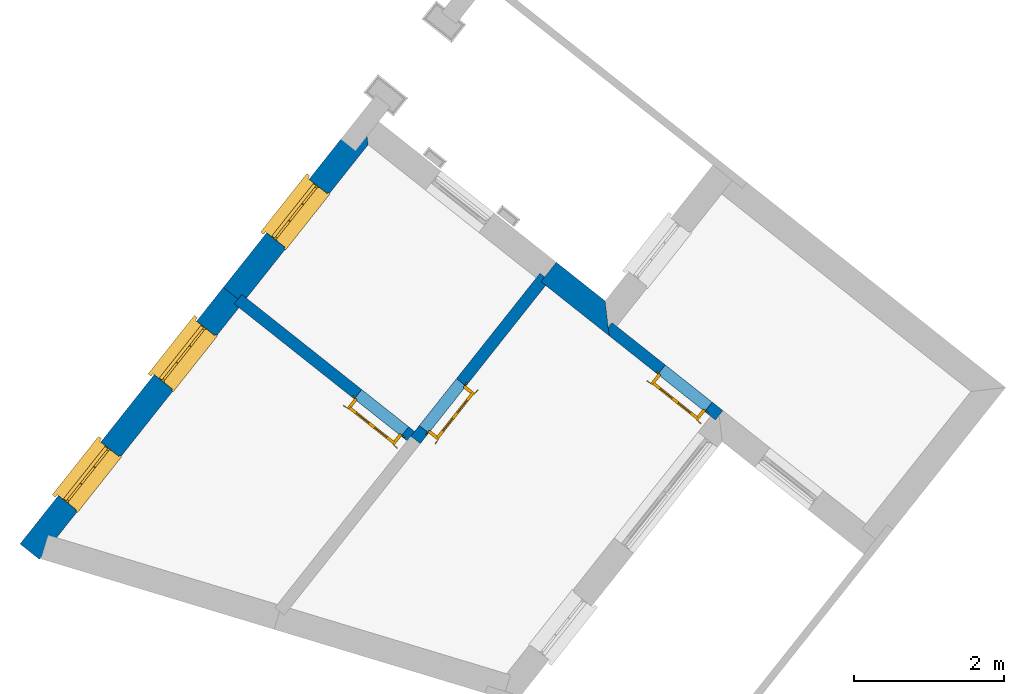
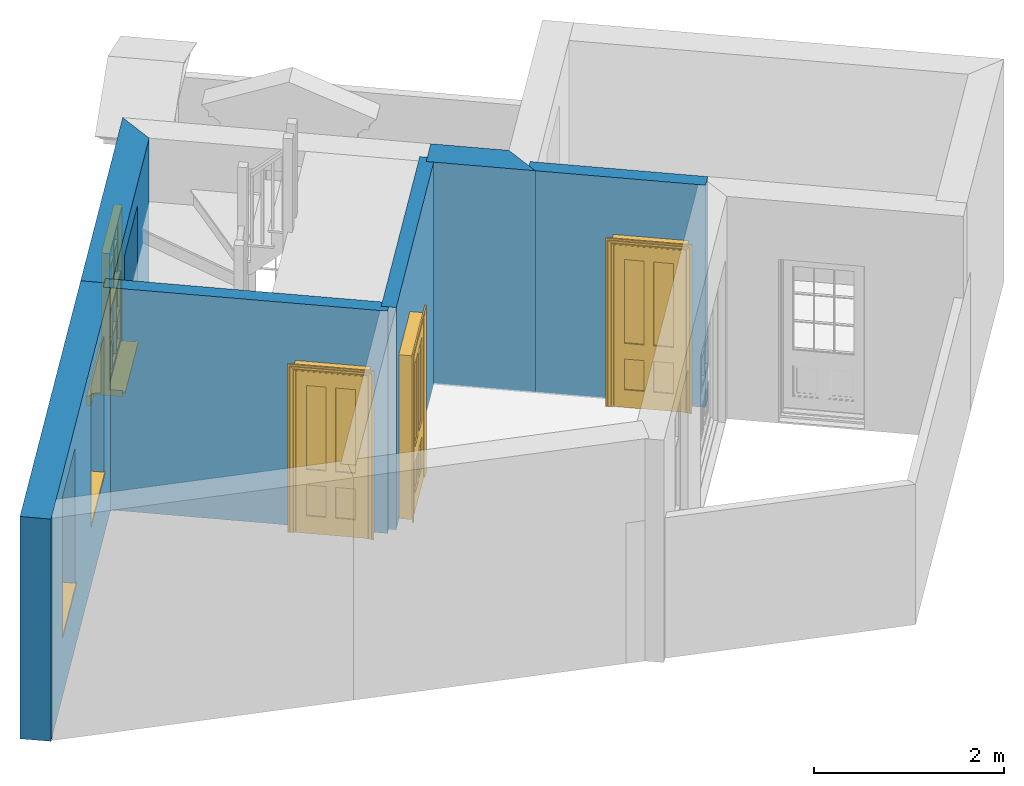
# One storey, part 4 of 8: 6 walls, 3 doors, 3 windows, 6 openings.
"""IFC4 building model written with IfcOpenShell, lengths in metres."""

from ifc_helpers import new_model, si_unit, frame, origin, origin_with_axes, place, context, subcontext, project, spatial, polyline, outline, extrude, faceted_brep, source, transform, mapped, material, layer, layer_set, layer_usage, type_object, type_shapes, element, fill, save


model = new_model("IFC4")

# Units and contexts
model_context = context("Model", 3, world=origin_with_axes())
body_context = subcontext(model_context, "Body", "Model", "MODEL_VIEW")
ifc_project = project(units=[si_unit("PLANEANGLEUNIT", "RADIAN"), si_unit("MASSUNIT", "GRAM", prefix="KILO"), si_unit("FORCEUNIT", "NEWTON", prefix="KILO"), si_unit("LENGTHUNIT", "METRE"), si_unit("AREAUNIT", "SQUARE_METRE"), si_unit("VOLUMEUNIT", "CUBIC_METRE")], contexts=[model_context, model_context])

# Sites, building, storey
site_1_placement = place(None, origin_with_axes())
site_1 = spatial("IfcSite", under=ifc_project, at=site_1_placement, Name="Tamar")
site_2_placement = place(site_1_placement, origin_with_axes())
site_2 = spatial("IfcSite", under=site_1, at=site_2_placement, Name="Site plot-5", CompositionType="ELEMENT")
building_placement = place(None, origin_with_axes())
building = spatial("IfcBuilding", under=site_2, at=building_placement, Name="Building plot-5", CompositionType="ELEMENT")
storey_placement = place(None, frame((0.0, 0.0, 24.0), z_axis=(0.0, 0.0, 1.0), x_axis=(1.0, 0.0, 0.0)))
storey = spatial("IfcBuildingStorey", under=building, at=storey_placement, Name="plot-5 0", CompositionType="ELEMENT", Elevation=24.0)

# Wall
ifc_material_1 = material(Name="Masonry")
ifc_layer_1 = layer(ifc_material_1, 0.33, ventilated=False)
ifc_layer_set_1 = layer_set([ifc_layer_1], Name="exterior_0.08_0.25")
ifc_layer_usage_1 = layer_usage(ifc_layer_set_1, "AXIS2", "POSITIVE", -0.25)
wall_type_1 = type_object("IfcWallType", Name="exterior_0.08_0.25", PredefinedType="SOLIDWALL", material=ifc_layer_set_1)
wall_1_placement = place(storey_placement, frame((232.729546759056, 275.005708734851, 0.0), z_axis=(0.0, 0.0, 1.0), x_axis=(-0.783658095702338, 0.621192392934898, 0.0)))
element("IfcWall", 1, at=wall_1_placement, inside=storey, type_object=wall_type_1, material=ifc_layer_usage_1, Name="exterior", context=body_context, shape_type="SweptSolid", body=[
    extrude(outline(polyline([(-0.0800000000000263, 0.0800000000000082), (0.25000000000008, -0.249999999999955), (1.07977793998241, -0.249999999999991), (1.07977793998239, 0.0800000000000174), (-0.0800000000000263, 0.0800000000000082)])), origin_with_axes(), (0.0, 0.0, 1.0), 2.85),
])

# Wall, opening, window
wall_2_placement = place(storey_placement, frame((229.516474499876, 277.552656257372, 0.0), z_axis=(0.0, 0.0, 1.0), x_axis=(-0.621192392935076, -0.783658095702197, 0.0)))
wall_2 = element("IfcWall", 2, at=wall_2_placement, inside=storey, type_object=wall_type_1, material=ifc_layer_usage_1, Name="exterior", context=body_context, shape_type="SweptSolid", body=[
    extrude(outline(polyline([(0.0799999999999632, 0.0799999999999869), (-0.249999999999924, -0.250000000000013), (2.77068773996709, -0.249999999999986), (2.77068773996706, 0.0799999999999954), (0.0799999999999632, 0.0799999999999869)])), origin_with_axes(), (0.0, 0.0, 1.0), 2.85),
])
opening_1_placement = place(wall_2_placement, frame((0.930343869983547, 0.0, 0.75)))
opening_1 = element("IfcOpeningElement", 3, at=opening_1_placement, cuts=wall_2, Name="My Opening", ObjectType="Opening", context=body_context, shape_type="SweptSolid", body=[
    extrude(outline(polyline([(0.0, -0.269999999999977), (0.909999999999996, -0.269999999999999), (0.909999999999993, 1.1), (-3.99680288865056e-15, 1.10000000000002), (0.0, -0.269999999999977)])), origin_with_axes(), (0.0, 0.0, 1.0), 1.82),
])
window_type = type_object("IfcWindowType", Name="sash_big", PartitioningType="DOUBLE_PANEL_HORIZONTAL", PredefinedType="NOTDEFINED")
shared_shape_1 = source(origin(), body_context, "Body", "Brep", [
    faceted_brep([(0.033125, 0.145, 0.975209), (0.01, 0.145, 0.975209), (0.033125, 0.145, 1.376042), (0.876875, 0.145, 0.975209), (0.876875, 0.145, 1.376042), (0.9, 0.145, 0.975209), (0.876875, 0.145, 1.386042), (0.876875, 0.145, 1.786875), (0.9, 0.145, 1.81), (0.033125, 0.145, 1.786875), (0.033125, 0.145, 1.386042), (0.01, 0.145, 1.81), (0.876875, 0.115, 1.376042), (0.876875, 0.115, 0.975209), (0.9, 0.115, 0.937083), (0.033125, 0.115, 1.786875), (0.01, 0.115, 1.81), (0.033125, 0.115, 1.386042), (0.01, 0.115, 0.937083), (0.033125, 0.115, 0.975209), (0.033125, 0.115, 1.376042), (0.876875, 0.115, 1.786875), (0.876875, 0.115, 1.386042), (0.9, 0.115, 1.81), (0.033125, 0.145, 0.937083), (0.01, 0.145, 0.937083), (0.033125, 0.145, 0.53625), (0.876875, 0.145, 0.937083), (0.876875, 0.145, 0.53625), (0.9, 0.145, 0.937083), (0.876875, 0.145, 0.52625), (0.876875, 0.145, 0.125417), (0.9, 0.145, 0.077167), (0.033125, 0.145, 0.125417), (0.033125, 0.145, 0.52625), (0.01, 0.145, 0.077167), (-0.0425, 0.0, 0.01), (-0.0425, -0.05, 0.001667), (0.0, 0.0, 0.01), (0.9525, 0.0, 0.01), (0.91, 0.0, 0.01), (0.9525, -0.05, 0.001667), (-0.02, 0.33, 0.077167), (0.0, 0.33, 0.077167), (-0.02, 0.36, 0.077167), (0.0, 0.19, 0.077167), (0.01, 0.19, 0.077167), (0.91, 0.19, 0.077167), (0.91, 0.33, 0.077167), (0.9, 0.19, 0.077167), (0.93, 0.33, 0.077167), (0.93, 0.36, 0.077167), (0.01, 0.175, 0.975209), (0.9, 0.175, 0.975209), (0.876875, 0.175, 0.125417), (0.876875, 0.175, 0.52625), (0.9, 0.175, 0.077167), (0.876875, 0.175, 0.53625), (0.876875, 0.175, 0.937083), (0.033125, 0.175, 0.125417), (0.01, 0.175, 0.077167), (0.033125, 0.175, 0.52625), (0.033125, 0.175, 0.937083), (0.033125, 0.175, 0.53625), (-0.02, 0.33, 0.052167), (-0.02, 0.36, 0.052167), (0.93, 0.36, 0.052167), (0.93, 0.33, 0.052167), (0.91, 0.33, 0.052167), (0.0, 0.33, 0.052167), (0.91, 0.1, 0.026667), (0.0, 0.1, 0.026667), (-0.0425, -0.05, -0.123333), (0.9525, -0.05, -0.123333), (-0.0425, 0.0, -0.123333), (0.9525, 0.0, -0.123333), (0.01, 0.19, 1.81), (0.9, 0.19, 1.81), (0.0, 0.19, 1.82), (0.91, 0.19, 1.82), (0.01, 0.1, 0.077167), (0.9, 0.1, 0.077167), (0.592292, 0.145, 0.125417), (0.592292, 0.175, 0.125417), (0.317708, 0.175, 0.125417), (0.317708, 0.145, 0.125417), (0.592292, 0.145, 0.53625), (0.317708, 0.145, 0.53625), (0.317708, 0.145, 0.52625), (0.592292, 0.145, 0.52625), (0.592292, 0.175, 0.53625), (0.317708, 0.175, 0.53625), (0.592292, 0.115, 1.386042), (0.592292, 0.145, 1.386042), (0.317708, 0.145, 1.386042), (0.317708, 0.115, 1.386042), (0.317708, 0.115, 1.376042), (0.592292, 0.115, 1.376042), (0.317708, 0.145, 1.376042), (0.592292, 0.145, 1.376042), (0.602292, 0.115, 1.376042), (0.592292, 0.115, 0.975209), (0.602292, 0.115, 0.975209), (0.602292, 0.145, 0.975209), (0.592292, 0.145, 0.975209), (0.602292, 0.145, 1.376042), (0.602292, 0.175, 0.53625), (0.602292, 0.145, 0.53625), (0.317708, 0.175, 0.52625), (0.307708, 0.175, 0.125417), (0.307708, 0.175, 0.52625), (0.602292, 0.175, 0.52625), (0.602292, 0.175, 0.125417), (0.592292, 0.175, 0.52625), (0.307708, 0.175, 0.53625), (0.317708, 0.175, 0.937083), (0.307708, 0.175, 0.937083), (0.602292, 0.175, 0.937083), (0.592292, 0.175, 0.937083), (0.307708, 0.145, 0.52625), (0.307708, 0.145, 0.125417), (0.307708, 0.145, 0.53625), (0.307708, 0.145, 0.937083), (0.592292, 0.145, 0.937083), (0.317708, 0.145, 0.937083), (0.602292, 0.145, 0.937083), (0.602292, 0.145, 0.52625), (0.602292, 0.145, 0.125417), (0.307708, 0.115, 1.386042), (0.307708, 0.115, 1.376042), (0.307708, 0.115, 0.975209), (0.317708, 0.115, 0.975209), (0.317708, 0.115, 1.786875), (0.307708, 0.115, 1.786875), (0.602292, 0.115, 1.786875), (0.592292, 0.115, 1.786875), (0.602292, 0.115, 1.386042), (0.602292, 0.145, 1.386042), (0.307708, 0.145, 1.386042), (0.307708, 0.145, 1.786875), (0.317708, 0.145, 1.786875), (0.592292, 0.145, 1.786875), (0.602292, 0.145, 1.786875), (0.307708, 0.145, 1.376042), (0.317708, 0.145, 0.975209), (0.307708, 0.145, 0.975209), (0.91, 0.1, 1.82), (0.9, 0.1, 1.81), (0.01, 0.1, 1.81), (0.0, 0.1, 1.82), (0.91, 0.0, 0.0), (0.0, 0.0, 0.0), (0.91, 0.33, 0.0), (0.0, 0.33, 0.0)], [[[0, 1, 2]], [[3, 4, 5]], [[6, 7, 8]], [[9, 10, 11]], [[12, 13, 14]], [[15, 16, 17]], [[18, 19, 20]], [[21, 22, 23]], [[24, 25, 26]], [[27, 28, 29]], [[30, 31, 32]], [[33, 34, 35]], [[14, 27, 29]], [[25, 24, 18]], [[36, 37, 38]], [[39, 40, 41]], [[42, 43, 44]], [[45, 46, 43]], [[47, 48, 49]], [[50, 51, 48]], [[1, 0, 52]], [[5, 53, 3]], [[54, 55, 56]], [[57, 58, 53]], [[59, 60, 61]], [[62, 63, 52]], [[48, 43, 46, 49]], [[51, 44, 43, 48]], [[64, 42, 44, 65]], [[65, 44, 51, 66]], [[66, 51, 50, 67]], [[65, 66, 68, 69]], [[60, 56, 49, 46]], [[70, 71, 38, 40]], [[37, 41, 40, 38]], [[37, 72, 73, 41]], [[74, 75, 73, 72]], [[8, 11, 76, 77]], [[76, 78, 79, 77]], [[32, 35, 80, 81]], [[81, 80, 71, 70]], [[82, 83, 84, 85]], [[86, 87, 88, 89]], [[86, 90, 91, 87]], [[92, 93, 94, 95]], [[92, 95, 96, 97]], [[96, 98, 99, 97]], [[100, 97, 101, 102]], [[103, 104, 99, 105]], [[97, 99, 104, 101]], [[102, 103, 105, 100]], [[28, 57, 106, 107]], [[108, 84, 109, 110]], [[111, 112, 83, 113]], [[114, 110, 61, 63]], [[90, 113, 108, 91]], [[115, 91, 114, 116]], [[117, 106, 90, 118]], [[111, 106, 57, 55]], [[119, 110, 109, 120]], [[34, 61, 110, 119]], [[89, 113, 83, 82]], [[88, 108, 113, 89]], [[85, 84, 108, 88]], [[121, 114, 63, 26]], [[122, 116, 114, 121]], [[123, 118, 90, 86]], [[87, 91, 115, 124]], [[107, 106, 117, 125]], [[126, 111, 55, 30]], [[127, 112, 111, 126]], [[126, 30, 28, 107]], [[88, 119, 120, 85]], [[126, 89, 82, 127]], [[125, 123, 86, 107]], [[121, 26, 34, 119]], [[124, 122, 121, 87]], [[128, 17, 20, 129]], [[96, 129, 130, 131]], [[132, 133, 128, 95]], [[134, 135, 92, 136]], [[100, 12, 22, 136]], [[137, 6, 4, 105]], [[94, 138, 139, 140]], [[137, 93, 141, 142]], [[99, 98, 94, 93]], [[143, 2, 10, 138]], [[144, 145, 143, 98]], [[129, 143, 145, 130]], [[20, 2, 143, 129]], [[131, 144, 98, 96]], [[128, 138, 10, 17]], [[133, 139, 138, 128]], [[135, 141, 93, 92]], [[95, 94, 140, 132]], [[22, 6, 137, 136]], [[136, 137, 142, 134]], [[100, 105, 4, 12]], [[107, 86, 89, 126]], [[106, 111, 113, 90]], [[91, 108, 110, 114]], [[87, 121, 119, 88]], [[97, 100, 136, 92]], [[129, 96, 95, 128]], [[98, 143, 138, 94]], [[105, 99, 93, 137]], [[131, 101, 104, 144]], [[124, 115, 118, 123]], [[132, 140, 141, 135]], [[120, 109, 59, 33]], [[15, 9, 139, 133]], [[134, 142, 7, 21]], [[31, 54, 112, 127]], [[36, 74, 72, 37]], [[39, 41, 73, 75]], [[18, 14, 101, 131]], [[23, 16, 132, 135]], [[83, 56, 60, 84]], [[52, 53, 118, 115]], [[53, 52, 144, 104]], [[11, 8, 141, 140]], [[14, 18, 124, 123]], [[2, 1, 11, 10]], [[8, 5, 4, 6]], [[57, 53, 56, 55]], [[60, 52, 63, 61]], [[26, 25, 35, 34]], [[32, 29, 28, 30]], [[14, 23, 22, 12]], [[18, 20, 17, 16]], [[19, 0, 2, 20]], [[17, 10, 9, 15]], [[12, 4, 3, 13]], [[21, 7, 6, 22]], [[27, 58, 57, 28]], [[30, 55, 54, 31]], [[33, 59, 61, 34]], [[26, 63, 62, 24]], [[5, 8, 77, 53]], [[76, 11, 1, 52]], [[46, 45, 78, 76]], [[49, 77, 79, 47]], [[70, 146, 147, 81]], [[71, 80, 148, 149]], [[19, 130, 145, 0]], [[102, 13, 3, 103]], [[116, 122, 24, 62]], [[29, 32, 81, 14]], [[80, 35, 25, 18]], [[60, 46, 76, 52]], [[77, 49, 56, 53]], [[23, 14, 81, 147]], [[16, 148, 80, 18]], [[35, 85, 120]], [[120, 33, 35]], [[127, 82, 32]], [[32, 31, 127]], [[32, 82, 85, 35]], [[102, 101, 14]], [[14, 13, 102]], [[18, 131, 130]], [[130, 19, 18]], [[134, 21, 23]], [[23, 135, 134]], [[16, 15, 133]], [[133, 132, 16]], [[11, 140, 139]], [[139, 9, 11]], [[142, 141, 8]], [[8, 7, 142]], [[23, 147, 148, 16]], [[146, 149, 148, 147]], [[52, 115, 116]], [[116, 62, 52]], [[118, 53, 117]], [[58, 117, 53]], [[27, 125, 117, 58]], [[56, 83, 112]], [[112, 54, 56]], [[109, 84, 60]], [[60, 59, 109]], [[125, 27, 14]], [[14, 123, 125]], [[122, 124, 18]], [[18, 24, 122]], [[145, 144, 52]], [[52, 0, 145]], [[103, 3, 53]], [[53, 104, 103]], [[79, 78, 149, 146]], [[78, 45, 71, 149]], [[146, 70, 47, 79]], [[150, 75, 74, 151]], [[68, 66, 67]], [[48, 68, 67, 50]], [[69, 64, 65]], [[42, 64, 69, 43]], [[69, 68, 152, 153]], [[70, 68, 48, 47]], [[150, 152, 68, 70]], [[43, 69, 71, 45]], [[69, 153, 151, 71]], [[152, 150, 151, 153]], [[38, 151, 74, 36]], [[71, 151, 38]], [[39, 75, 150, 40]], [[40, 150, 70]]]),
])
type_shapes(window_type, [shared_shape_1])
window_1_placement = place(storey_placement, frame((228.726964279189, 276.991306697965, 0.75), z_axis=(0.0, 0.0, 1.0), x_axis=(-0.565285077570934, -0.713128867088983, 0.0)))
window_1 = element("IfcWindow", 4, at=window_1_placement, inside=storey, type_object=window_type, Name="circulation street window", OverallHeight=1.82, OverallWidth=0.91, context=body_context, shape_type="MappedRepresentation", body=[
    mapped(shared_shape_1, transform((0.0, 0.0, 0.0), scale=1.0)),
])
fill(opening_1, window_1)

# Wall, openings, windows
wall_3_placement = place(storey_placement, frame((227.79534435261, 275.381384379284, 0.0), z_axis=(0.0, 0.0, 1.0), x_axis=(-0.621192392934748, -0.783658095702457, 0.0)))
wall_3 = element("IfcWall", 5, at=wall_3_placement, inside=storey, type_object=wall_type_1, material=ifc_layer_usage_1, Name="exterior", context=body_context, shape_type="SweptSolid", body=[
    extrude(outline(polyline([(2.39305944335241e-14, 0.079999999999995), (-8.25852849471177e-14, -0.249999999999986), (4.36249502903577, -0.249999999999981), (4.36249502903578, 0.0800000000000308), (2.39305944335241e-14, 0.079999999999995)])), origin_with_axes(), (0.0, 0.0, 1.0), 2.85),
])
opening_2_placement = place(wall_3_placement, frame((0.573123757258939, 0.0, 0.75)))
opening_2 = element("IfcOpeningElement", 6, at=opening_2_placement, cuts=wall_3, Name="My Opening", ObjectType="Opening", context=body_context, shape_type="SweptSolid", body=[
    extrude(outline(polyline([(0.0, -0.270000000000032), (0.909999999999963, -0.270000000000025), (0.909999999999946, 1.09999999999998), (-1.69864122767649e-14, 1.09999999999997), (0.0, -0.270000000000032)])), origin_with_axes(), (0.0, 0.0, 1.0), 1.82),
])
opening_3_placement = place(wall_3_placement, frame((2.62937127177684, 0.0, 0.75)))
opening_3 = element("IfcOpeningElement", 7, at=opening_3_placement, cuts=wall_3, Name="My Opening", ObjectType="Opening", context=body_context, shape_type="SweptSolid", body=[
    extrude(outline(polyline([(0.0, -0.270000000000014), (0.909999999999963, -0.270000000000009), (0.909999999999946, 1.1), (-1.68753899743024e-14, 1.09999999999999), (0.0, -0.270000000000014)])), origin_with_axes(), (0.0, 0.0, 1.0), 1.82),
])
window_2_placement = place(storey_placement, frame((227.227736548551, 275.099973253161, 0.75), z_axis=(0.0, 0.0, 1.0), x_axis=(-0.565285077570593, -0.71312886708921, 0.0)))
window_2 = element("IfcWindow", 8, at=window_2_placement, inside=storey, type_object=window_type, Name="toilet street window", OverallHeight=1.82, OverallWidth=0.91, context=body_context, shape_type="MappedRepresentation", body=[
    mapped(shared_shape_1, transform((0.0, 0.0, 0.0), scale=1.0)),
])
fill(opening_2, window_2)
window_3_placement = place(storey_placement, frame((225.950411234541, 273.488578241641, 0.75), z_axis=(0.0, 0.0, 1.0), x_axis=(-0.565285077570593, -0.71312886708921, 0.0)))
window_3 = element("IfcWindow", 9, at=window_3_placement, inside=storey, type_object=window_type, Name="toilet street window", OverallHeight=1.82, OverallWidth=0.91, context=body_context, shape_type="MappedRepresentation", body=[
    mapped(shared_shape_1, transform((0.0, 0.0, 0.0), scale=1.0)),
])
fill(opening_3, window_3)

# Wall, opening, door
ifc_material_2 = material(Name="Masonry")
ifc_layer_2 = layer(ifc_material_2, 0.16, ventilated=False)
ifc_layer_set_2 = layer_set([ifc_layer_2], Name="interior_0.08_0.08")
ifc_layer_usage_2 = layer_usage(ifc_layer_set_2, "AXIS2", "POSITIVE", -0.08)
wall_type_2 = type_object("IfcWallType", Name="interior_0.08_0.08", PredefinedType="SOLIDWALL", material=ifc_layer_set_2)
wall_4_placement = place(storey_placement, frame((231.883370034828, 275.676458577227, 0.0), z_axis=(0.0, 0.0, 1.0), x_axis=(-0.62119239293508, -0.783658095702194, 0.0)))
wall_4 = element("IfcWall", 10, at=wall_4_placement, inside=storey, type_object=wall_type_2, material=ifc_layer_usage_2, Name="interior", context=body_context, shape_type="SweptSolid", body=[
    extrude(outline(polyline([(-9.89123978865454e-15, 0.079999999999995), (9.88144261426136e-15, -0.079999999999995), (2.77068773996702, -0.0799999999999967), (2.770687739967, 0.0799999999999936), (-9.89123978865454e-15, 0.079999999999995)])), origin_with_axes(), (0.0, 0.0, 1.0), 2.85),
])
opening_4_placement = place(wall_4_placement, frame((1.790687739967, 0.0, 0.0199999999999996)))
opening_4 = element("IfcOpeningElement", 11, at=opening_4_placement, cuts=wall_4, Name="My Opening", ObjectType="Opening", context=body_context, shape_type="SweptSolid", body=[
    extrude(outline(polyline([(0.0, -0.100000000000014), (0.80000000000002, -0.100000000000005), (0.800000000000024, 1.1), (2.88657986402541e-15, 1.1), (0.0, -0.100000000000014)])), origin_with_axes(), (0.0, 0.0, 1.0), 2.1),
])
door_type = type_object("IfcDoorType", Name="door_inside", OperationType="SINGLE_SWING_LEFT", PredefinedType="NOTDEFINED")
shared_shape_2 = source(origin(), body_context, "Body", "Brep", [
    faceted_brep([(0.773, 0.33, 1.895), (0.66, 0.33, 1.895), (0.66, 0.33, 2.073), (0.773, 0.33, 2.073), (0.773, 0.33, 0.82), (0.66, 0.33, 0.82), (0.45, 0.33, 1.895), (0.45, 0.33, 2.073), (0.773, 0.33, 0.62), (0.66, 0.33, 0.62), (0.66, 0.315, 0.82), (0.66, 0.315, 1.895), (0.45, 0.315, 1.895), (0.35, 0.33, 1.895), (0.35, 0.33, 2.073), (0.773, 0.33, 0.225), (0.66, 0.33, 0.225), (0.45, 0.33, 0.62), (0.45, 0.33, 0.82), (0.45, 0.315, 0.82), (0.35, 0.33, 0.82), (0.14, 0.33, 2.073), (0.14, 0.33, 1.895), (0.773, 0.33, 0.0), (0.66, 0.33, 0.0), (0.66, 0.315, 0.225), (0.66, 0.315, 0.62), (0.45, 0.315, 0.62), (0.35, 0.33, 0.62), (0.35, 0.315, 0.82), (0.35, 0.315, 1.895), (0.14, 0.315, 1.895), (0.027, 0.33, 2.073), (0.027, 0.33, 1.895), (0.773, 0.292, 0.0), (0.66, 0.292, 0.0), (0.45, 0.33, 0.0), (0.45, 0.33, 0.225), (0.45, 0.315, 0.225), (0.35, 0.33, 0.225), (0.14, 0.33, 0.82), (0.14, 0.33, 0.62), (0.14, 0.315, 0.82), (0.027, 0.33, 0.82), (0.773, 0.292, 0.225), (0.66, 0.292, 0.225), (0.45, 0.292, 0.0), (0.35, 0.33, 0.0), (0.35, 0.315, 0.225), (0.35, 0.315, 0.62), (0.14, 0.315, 0.62), (0.027, 0.33, 0.62), (0.773, 0.292, 0.62), (0.66, 0.292, 0.62), (0.45, 0.292, 0.225), (0.35, 0.292, 0.0), (0.14, 0.33, 0.225), (0.14, 0.33, 0.0), (0.14, 0.315, 0.225), (0.027, 0.33, 0.225), (0.773, 0.292, 0.82), (0.66, 0.292, 0.82), (0.66, 0.307, 0.62), (0.66, 0.307, 0.225), (0.45, 0.307, 0.225), (0.35, 0.292, 0.225), (0.14, 0.292, 0.0), (0.027, 0.33, 0.0), (0.773, 0.292, 1.895), (0.66, 0.292, 1.895), (0.45, 0.292, 0.62), (0.45, 0.292, 0.82), (0.45, 0.307, 0.62), (0.35, 0.292, 0.62), (0.14, 0.292, 0.225), (0.027, 0.292, 0.0), (0.773, 0.292, 2.073), (0.66, 0.292, 2.073), (0.66, 0.307, 1.895), (0.66, 0.307, 0.82), (0.45, 0.307, 0.82), (0.35, 0.292, 0.82), (0.35, 0.307, 0.62), (0.35, 0.307, 0.225), (0.14, 0.307, 0.225), (0.027, 0.292, 0.225), (0.45, 0.292, 1.895), (0.45, 0.292, 2.073), (0.45, 0.307, 1.895), (0.35, 0.292, 1.895), (0.14, 0.292, 0.82), (0.14, 0.292, 0.62), (0.14, 0.307, 0.62), (0.027, 0.292, 0.62), (0.35, 0.292, 2.073), (0.35, 0.307, 1.895), (0.35, 0.307, 0.82), (0.14, 0.307, 0.82), (0.027, 0.292, 0.82), (0.14, 0.292, 2.073), (0.14, 0.292, 1.895), (0.14, 0.307, 1.895), (0.027, 0.292, 1.895), (0.027, 0.292, 2.073), (0.02, 0.335, 0.0), (0.005, 0.34, 0.0), (0.005, 0.34, 2.095), (0.02, 0.335, 2.08), (0.02, 0.33, 0.0), (0.0, 0.335, 0.0), (0.0, 0.335, 2.1), (0.795, 0.34, 2.095), (0.78, 0.335, 2.08), (0.02, 0.33, 2.08), (0.0, 0.33, 0.0), (-0.032, 0.345, 0.0), (-0.032, 0.345, 2.132), (0.8, 0.335, 2.1), (0.795, 0.34, 0.0), (0.78, 0.335, 0.0), (0.78, 0.33, 2.08), (0.04, 0.29, 0.0), (0.025, 0.29, 0.0), (0.025, 0.29, 2.075), (0.04, 0.29, 2.06), (-0.04, 0.34, 0.0), (-0.04, 0.34, 2.14), (0.832, 0.345, 2.132), (0.8, 0.335, 0.0), (0.78, 0.33, 0.0), (0.8, 0.33, 0.0), (0.86, 0.33, 0.0), (0.86, 0.33, 2.16), (0.8, 0.33, 2.1), (-0.06, 0.33, 2.16), (0.0, 0.33, 2.1), (-0.06, 0.33, 0.0), (-0.04, 0.345, 0.0), (-0.04, 0.345, 2.14), (0.84, 0.34, 2.14), (0.832, 0.345, 0.0), (0.84, 0.34, 0.0), (0.86, 0.345, 0.0), (0.86, 0.345, 2.16), (-0.06, 0.345, 2.16), (-0.06, 0.345, 0.0), (0.84, 0.345, 0.0), (0.84, 0.345, 2.14), (-0.025, 0.155, 0.0), (-0.025, 0.16, 0.0), (-0.025, 0.16, 2.125), (-0.025, 0.155, 2.125), (-0.017, 0.155, 0.0), (-0.017, 0.155, 2.117), (0.825, 0.16, 2.125), (0.825, 0.155, 2.125), (0.825, 0.155, 0.0), (0.845, 0.155, 0.0), (-0.045, 0.155, 2.145), (-0.045, 0.155, 0.0), (0.845, 0.155, 2.145), (0.015, 0.165, 0.0), (0.015, 0.165, 2.085), (0.817, 0.155, 2.117), (0.825, 0.16, 0.0), (0.845, 0.17, 0.0), (0.845, 0.17, 2.145), (-0.045, 0.17, 2.145), (-0.045, 0.17, 0.0), (0.02, 0.16, 0.0), (0.02, 0.16, 2.08), (0.785, 0.165, 2.085), (0.817, 0.155, 0.0), (0.8, 0.17, 0.0), (0.8, 0.17, 2.1), (0.0, 0.17, 2.1), (0.0, 0.17, 0.0), (0.035, 0.165, 0.0), (0.035, 0.165, 2.065), (0.78, 0.16, 2.08), (0.785, 0.165, 0.0), (0.775, 0.29, 2.075), (0.76, 0.29, 2.06), (0.035, 0.17, 2.065), (0.035, 0.17, 0.0), (0.765, 0.165, 2.065), (0.78, 0.16, 0.0), (0.765, 0.17, 0.0), (0.765, 0.17, 2.065), (0.765, 0.165, 0.0), (0.04, 0.17, 2.06), (0.04, 0.17, 0.0), (0.76, 0.17, 2.06), (0.76, 0.17, 0.0), (0.76, 0.29, 0.0), (0.775, 0.29, 0.0), (0.025, 0.33, 0.0), (0.025, 0.33, 2.075), (0.775, 0.33, 0.0), (0.775, 0.33, 2.075)], [[[0, 1, 2, 3]], [[1, 0, 4, 5]], [[1, 6, 7, 2]], [[8, 9, 5, 4]], [[1, 5, 10, 11]], [[6, 1, 11, 12]], [[6, 13, 14, 7]], [[15, 16, 9, 8]], [[9, 17, 18, 5]], [[5, 18, 19, 10]], [[10, 19, 12, 11]], [[18, 6, 12, 19]], [[18, 20, 13, 6]], [[21, 14, 13, 22]], [[23, 24, 16, 15]], [[9, 16, 25, 26]], [[17, 9, 26, 27]], [[17, 28, 20, 18]], [[13, 20, 29, 30]], [[22, 13, 30, 31]], [[32, 21, 22, 33]], [[34, 35, 24, 23]], [[24, 36, 37, 16]], [[16, 37, 38, 25]], [[25, 38, 27, 26]], [[37, 17, 27, 38]], [[37, 39, 28, 17]], [[40, 20, 28, 41]], [[20, 40, 42, 29]], [[31, 30, 29, 42]], [[40, 22, 31, 42]], [[33, 22, 40, 43]], [[35, 34, 44, 45]], [[35, 46, 36, 24]], [[36, 47, 39, 37]], [[28, 39, 48, 49]], [[41, 28, 49, 50]], [[43, 40, 41, 51]], [[45, 44, 52, 53]], [[46, 35, 45, 54]], [[46, 55, 47, 36]], [[56, 39, 47, 57]], [[39, 56, 58, 48]], [[50, 49, 48, 58]], [[56, 41, 50, 58]], [[51, 41, 56, 59]], [[53, 52, 60, 61]], [[45, 53, 62, 63]], [[54, 45, 63, 64]], [[55, 46, 54, 65]], [[55, 66, 57, 47]], [[59, 56, 57, 67]], [[61, 60, 68, 69]], [[70, 53, 61, 71]], [[53, 70, 72, 62]], [[72, 64, 63, 62]], [[70, 54, 64, 72]], [[65, 54, 70, 73]], [[65, 74, 66, 55]], [[67, 57, 66, 75]], [[69, 68, 76, 77]], [[61, 69, 78, 79]], [[71, 61, 79, 80]], [[73, 70, 71, 81]], [[65, 73, 82, 83]], [[74, 65, 83, 84]], [[74, 85, 75, 66]], [[86, 69, 77, 87]], [[69, 86, 88, 78]], [[88, 80, 79, 78]], [[86, 71, 80, 88]], [[81, 71, 86, 89]], [[73, 81, 90, 91]], [[73, 91, 92, 82]], [[83, 82, 92, 84]], [[91, 74, 84, 92]], [[91, 93, 85, 74]], [[89, 86, 87, 94]], [[81, 89, 95, 96]], [[90, 81, 96, 97]], [[90, 98, 93, 91]], [[94, 99, 100, 89]], [[89, 100, 101, 95]], [[101, 97, 96, 95]], [[100, 90, 97, 101]], [[100, 102, 98, 90]], [[99, 103, 102, 100]], [[32, 103, 99, 21]], [[102, 103, 32, 33]], [[98, 102, 33, 43]], [[21, 99, 94, 14]], [[94, 87, 7, 14]], [[7, 87, 77, 2]], [[76, 3, 2, 77]], [[43, 51, 93, 98]], [[51, 59, 85, 93]], [[67, 75, 85, 59]], [[34, 23, 15, 44]], [[44, 15, 8, 52]], [[52, 8, 4, 60]], [[0, 68, 60, 4]], [[0, 3, 76, 68]], [[104, 105, 106, 107]], [[104, 108, 109, 105]], [[105, 109, 110, 106]], [[107, 106, 111, 112]], [[107, 113, 108, 104]], [[114, 109, 108]], [[109, 115, 116, 110]], [[106, 110, 117, 111]], [[112, 111, 118, 119]], [[113, 107, 112, 120]], [[121, 122, 123, 124]], [[115, 109, 114, 125]], [[115, 125, 126, 116]], [[110, 116, 127, 117]], [[111, 117, 128, 118]], [[118, 128, 129, 119]], [[120, 112, 119, 129]], [[130, 129, 128]], [[130, 131, 132, 133]], [[133, 132, 134, 135]], [[135, 134, 136, 114]], [[136, 125, 114]], [[125, 137, 138, 126]], [[116, 126, 139, 127]], [[117, 127, 140, 128]], [[141, 130, 128, 140]], [[131, 130, 141]], [[131, 142, 143, 132]], [[132, 143, 144, 134]], [[134, 144, 145, 136]], [[137, 125, 136, 145]], [[143, 142, 146]], [[143, 146, 147]], [[137, 145, 144]], [[143, 147, 138]], [[138, 137, 144]], [[143, 138, 144]], [[126, 138, 147, 139]], [[127, 139, 141, 140]], [[142, 131, 141, 146]], [[139, 147, 146, 141]], [[148, 149, 150, 151]], [[149, 152, 153, 150]], [[151, 150, 154, 155]], [[155, 156, 157]], [[158, 159, 148]], [[158, 148, 151]], [[155, 157, 160]], [[158, 151, 155]], [[155, 160, 158]], [[152, 161, 162, 153]], [[150, 153, 163, 154]], [[155, 154, 164, 156]], [[156, 164, 165, 157]], [[157, 165, 166, 160]], [[160, 166, 167, 158]], [[158, 167, 168, 159]], [[161, 169, 170, 162]], [[153, 162, 171, 163]], [[154, 163, 172, 164]], [[165, 164, 173]], [[165, 173, 174, 166]], [[166, 174, 175, 167]], [[167, 175, 176, 168]], [[169, 177, 178, 170]], [[162, 170, 179, 171]], [[163, 171, 180, 172]], [[172, 180, 173, 164]], [[124, 123, 181, 182]], [[183, 178, 177, 184]], [[170, 178, 185, 179]], [[171, 179, 186, 180]], [[187, 173, 180]], [[185, 188, 187, 189]], [[188, 185, 178, 183]], [[179, 185, 189, 186]], [[189, 187, 180, 186]], [[190, 183, 184, 191]], [[192, 188, 183, 190]], [[191, 184, 122, 121]], [[124, 190, 191, 121]], [[193, 187, 188, 192]], [[182, 192, 190, 124]], [[184, 176, 122]], [[194, 195, 187, 193]], [[192, 182, 194, 193]], [[161, 176, 184]], [[114, 108, 122, 176]], [[173, 187, 195]], [[152, 149, 176, 161]], [[169, 161, 184, 177]], [[196, 122, 108]], [[176, 175, 135, 114]], [[173, 195, 129, 130]], [[176, 149, 168]], [[123, 122, 196, 197]], [[196, 108, 113, 197]], [[175, 174, 133, 135]], [[198, 129, 195]], [[133, 174, 173, 130]], [[159, 168, 149, 148]], [[181, 123, 197, 199]], [[197, 113, 120, 199]], [[199, 120, 129, 198]], [[195, 181, 199, 198]], [[195, 194, 182, 181]]]),
])
type_shapes(door_type, [shared_shape_2])
door_1_placement = place(storey_placement, frame((230.692642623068, 274.335290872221, 0.0199999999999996), z_axis=(0.0, 0.0, 1.0), x_axis=(-0.496953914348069, -0.626926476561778, 0.0)))
door_1 = element("IfcDoor", 12, at=door_1_placement, inside=storey, type_object=door_type, Name="living inside door", OverallHeight=2.1, OverallWidth=0.8, context=body_context, shape_type="MappedRepresentation", body=[
    mapped(shared_shape_2, transform((0.0, 0.0, 0.0), scale=1.0)),
])
fill(opening_4, door_1)

wall_5_placement = place(storey_placement, frame((234.208321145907, 273.833509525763, 0.0), z_axis=(0.0, 0.0, 1.0), x_axis=(-0.783658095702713, 0.621192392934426, 0.0)))
wall_5 = element("IfcWall", 13, at=wall_5_placement, inside=storey, type_object=wall_type_2, material=ifc_layer_usage_2, Name="interior", context=body_context, shape_type="SweptSolid", body=[
    extrude(outline(polyline([(1.69513428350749e-14, 0.0799999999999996), (-1.69415456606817e-14, -0.0799999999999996), (1.88701475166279, -0.0799999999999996), (1.88701475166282, 0.0799999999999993), (1.69513428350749e-14, 0.0799999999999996)])), origin_with_axes(), (0.0, 0.0, 1.0), 2.85),
])
opening_5_placement = place(wall_5_placement, frame((0.179999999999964, 0.0, 0.0199999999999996)))
opening_5 = element("IfcOpeningElement", 14, at=opening_5_placement, cuts=wall_5, Name="My Opening", ObjectType="Opening", context=body_context, shape_type="SweptSolid", body=[
    extrude(outline(polyline([(0.0, -0.0999999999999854), (0.800000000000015, -0.0999999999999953), (0.800000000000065, 1.09999999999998), (5.00155472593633e-14, 1.09999999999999), (0.0, -0.0999999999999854)])), origin_with_axes(), (0.0, 0.0, 1.0), 2.1),
])
door_2_placement = place(storey_placement, frame((234.129381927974, 274.023689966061, 0.0199999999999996), z_axis=(0.0, 0.0, 1.0), x_axis=(-0.626926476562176, 0.496953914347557, 0.0)))
door_2 = element("IfcDoor", 15, at=door_2_placement, inside=storey, type_object=door_type, Name="kitchen living inside door", OverallHeight=2.1, OverallWidth=0.8, context=body_context, shape_type="MappedRepresentation", body=[
    mapped(shared_shape_2, transform((0.0, 0.0, 0.0), scale=1.0)),
])
fill(opening_5, door_2)

wall_6_placement = place(storey_placement, frame((230.162239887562, 273.505186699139, 0.0), z_axis=(0.0, 0.0, 1.0), x_axis=(-0.783658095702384, 0.621192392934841, 0.0)))
wall_6 = element("IfcWall", 16, at=wall_6_placement, inside=storey, type_object=wall_type_2, material=ifc_layer_usage_2, Name="interior", context=body_context, shape_type="SweptSolid", body=[
    extrude(outline(polyline([(-3.12148945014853e-15, 0.0800000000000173), (3.16681376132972e-15, -0.0800000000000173), (3.02031657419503, -0.0800000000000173), (3.02031657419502, 0.0800000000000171), (-3.12148945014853e-15, 0.0800000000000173)])), origin_with_axes(), (0.0, 0.0, 1.0), 2.85),
])
opening_6_placement = place(wall_6_placement, frame((0.179999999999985, 0.0, 0.0199999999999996)))
opening_6 = element("IfcOpeningElement", 17, at=opening_6_placement, cuts=wall_6, Name="My Opening", ObjectType="Opening", context=body_context, shape_type="SweptSolid", body=[
    extrude(outline(polyline([(0.0, -0.0999999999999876), (0.800000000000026, -0.0999999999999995), (0.800000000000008, 1.09999999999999), (-1.74582570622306e-14, 1.1), (0.0, -0.0999999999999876)])), origin_with_axes(), (0.0, 0.0, 1.0), 2.1),
])
door_3_placement = place(storey_placement, frame((230.083300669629, 273.695367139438, 0.0199999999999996), z_axis=(0.0, 0.0, 1.0), x_axis=(-0.62692647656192, 0.496953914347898, 0.0)))
door_3 = element("IfcDoor", 18, at=door_3_placement, inside=storey, type_object=door_type, Name="toilet inside door", OverallHeight=2.1, OverallWidth=0.8, context=body_context, shape_type="MappedRepresentation", body=[
    mapped(shared_shape_2, transform((0.0, 0.0, 0.0), scale=1.0)),
])
fill(opening_6, door_3)

save(model, "model.ifc")
